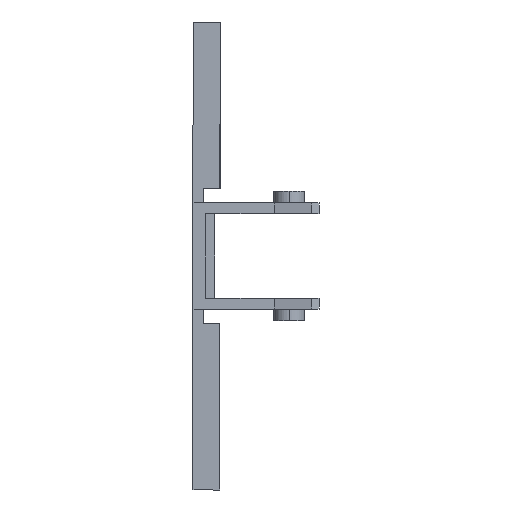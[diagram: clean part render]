
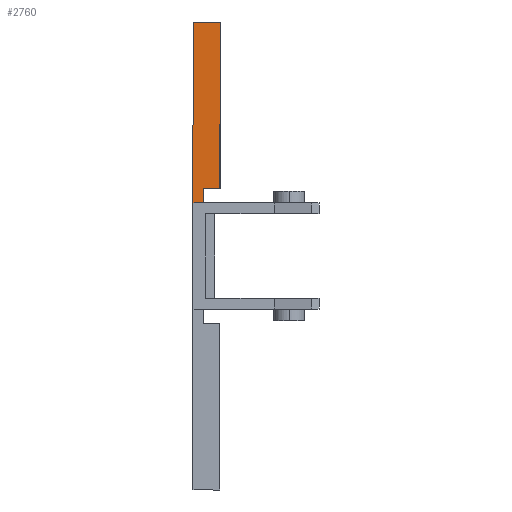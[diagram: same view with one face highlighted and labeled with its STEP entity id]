
A CAD part, front view. The second image highlights one B-rep face of the part: STEP entity #2760.
In plain terms, the highlighted planar face has unit normal (0, -1, 0).
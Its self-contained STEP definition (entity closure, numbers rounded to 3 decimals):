
#105 = CARTESIAN_POINT ( 'NONE',  ( 3., -9., 7.5 ) ) ;
#285 = DIRECTION ( 'NONE',  ( -1., 0., 0. ) ) ;
#310 = CARTESIAN_POINT ( 'NONE',  ( 0., -9., 5. ) ) ;
#311 = DIRECTION ( 'NONE',  ( 0., 0., 1. ) ) ;
#440 = CARTESIAN_POINT ( 'NONE',  ( 0., -9., 26. ) ) ;
#441 = DIRECTION ( 'NONE',  ( 1., 0., 0. ) ) ;
#458 = CARTESIAN_POINT ( 'NONE',  ( 1.2, -9., 7.5 ) ) ;
#459 = DIRECTION ( 'NONE',  ( 0., 0., -1. ) ) ;
#460 = DIRECTION ( 'NONE',  ( 0., 0., -1. ) ) ;
#465 = CARTESIAN_POINT ( 'NONE',  ( 3., -9., 26. ) ) ;
#655 = CARTESIAN_POINT ( 'NONE',  ( 0., -9., 5. ) ) ;
#656 = PLANE ( 'NONE',  #1902 ) ;
#658 = DIRECTION ( 'NONE',  ( 0., 1., 0. ) ) ;
#659 = DIRECTION ( 'NONE',  ( 0., 0., 1. ) ) ;
#662 = DIRECTION ( 'NONE',  ( -1., 0., 0. ) ) ;
#854 = CARTESIAN_POINT ( 'NONE',  ( 0., -9., 5.9 ) ) ;
#905 = VERTEX_POINT ( 'NONE', #1067 ) ;
#908 = VERTEX_POINT ( 'NONE', #1065 ) ;
#909 = VERTEX_POINT ( 'NONE', #1066 ) ;
#910 = VERTEX_POINT ( 'NONE', #1063 ) ;
#974 = VERTEX_POINT ( 'NONE', #1145 ) ;
#983 = VERTEX_POINT ( 'NONE', #1136 ) ;
#1063 = CARTESIAN_POINT ( 'NONE',  ( 3., -9., 7.5 ) ) ;
#1065 = CARTESIAN_POINT ( 'NONE',  ( 3., -9., 26. ) ) ;
#1066 = CARTESIAN_POINT ( 'NONE',  ( 1.2, -9., 7.5 ) ) ;
#1067 = CARTESIAN_POINT ( 'NONE',  ( 1.2, -9., 5.9 ) ) ;
#1136 = CARTESIAN_POINT ( 'NONE',  ( 0., -9., 5.9 ) ) ;
#1145 = CARTESIAN_POINT ( 'NONE',  ( 0., -9., 26. ) ) ;
#1222 = FACE_OUTER_BOUND ( 'NONE', #2286, .T. ) ;
#1337 = VECTOR ( 'NONE', #441, 1000. ) ;
#1338 = LINE ( 'NONE', #440, #1337 ) ;
#1347 = VECTOR ( 'NONE', #459, 1000. ) ;
#1348 = LINE ( 'NONE', #458, #1347 ) ;
#1356 = VECTOR ( 'NONE', #460, 1000. ) ;
#1380 = LINE ( 'NONE', #465, #1356 ) ;
#1398 = VECTOR ( 'NONE', #311, 1000. ) ;
#1399 = LINE ( 'NONE', #310, #1398 ) ;
#1443 = VECTOR ( 'NONE', #285, 1000. ) ;
#1445 = LINE ( 'NONE', #105, #1443 ) ;
#1714 = EDGE_CURVE ( 'NONE', #905, #983, #2571, .T. ) ;
#1850 = EDGE_CURVE ( 'NONE', #910, #909, #1445, .T. ) ;
#1873 = EDGE_CURVE ( 'NONE', #983, #974, #1399, .T. ) ;
#1902 = AXIS2_PLACEMENT_3D ( 'NONE', #655, #658, #659 ) ;
#1948 = EDGE_CURVE ( 'NONE', #908, #910, #1380, .T. ) ;
#1955 = EDGE_CURVE ( 'NONE', #909, #905, #1348, .T. ) ;
#1976 = EDGE_CURVE ( 'NONE', #974, #908, #1338, .T. ) ;
#2286 = EDGE_LOOP ( 'NONE', ( #2413, #2409, #2407, #2399, #2398, #2397 ) ) ;
#2397 = ORIENTED_EDGE ( 'NONE', *, *, #1976, .F. ) ;
#2398 = ORIENTED_EDGE ( 'NONE', *, *, #1948, .F. ) ;
#2399 = ORIENTED_EDGE ( 'NONE', *, *, #1850, .F. ) ;
#2407 = ORIENTED_EDGE ( 'NONE', *, *, #1955, .F. ) ;
#2409 = ORIENTED_EDGE ( 'NONE', *, *, #1714, .F. ) ;
#2413 = ORIENTED_EDGE ( 'NONE', *, *, #1873, .F. ) ;
#2571 = LINE ( 'NONE', #854, #2576 ) ;
#2576 = VECTOR ( 'NONE', #662, 1000. ) ;
#2760 = ADVANCED_FACE ( 'NONE', ( #1222 ), #656, .F. ) ;
